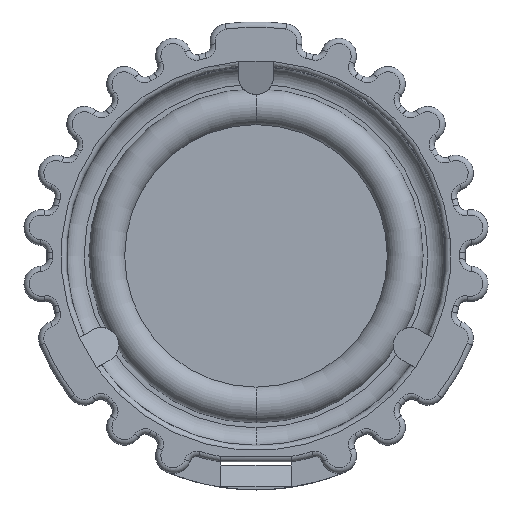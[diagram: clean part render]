
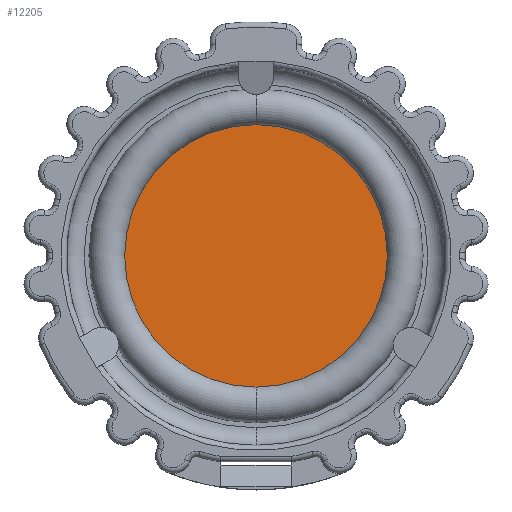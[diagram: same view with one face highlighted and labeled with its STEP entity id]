
A CAD part, top view. The second image highlights one B-rep face of the part: STEP entity #12205.
In plain terms, the highlighted planar face has unit normal (0, 0, 1).
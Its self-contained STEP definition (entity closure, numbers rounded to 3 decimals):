
#4824=CARTESIAN_POINT('',(0.,0.,-7.62));
#4825=DIRECTION('',(0.,0.,1.));
#4826=DIRECTION('',(0.,1.,0.));
#4827=AXIS2_PLACEMENT_3D('',#4824,#4825,#4826);
#4829=CARTESIAN_POINT('',(0.,0.,-7.62));
#4830=DIRECTION('',(0.,0.,-1.));
#4831=DIRECTION('',(0.,1.,0.));
#4832=AXIS2_PLACEMENT_3D('',#4829,#4830,#4831);
#4931=CARTESIAN_POINT('',(0.,9.411,-7.62));
#4932=CARTESIAN_POINT('',(0.,-9.411,-7.62));
#4933=VERTEX_POINT('',#4931);
#4934=VERTEX_POINT('',#4932);
#12196=CARTESIAN_POINT('',(0.,0.,-7.62));
#12197=DIRECTION('',(0.,0.,-1.));
#12198=DIRECTION('',(0.,-1.,0.));
#12199=AXIS2_PLACEMENT_3D('',#12196,#12197,#12198);
#12200=PLANE('',#12199);
#12201=ORIENTED_EDGE('',*,*,#12175,.F.);
#12202=ORIENTED_EDGE('',*,*,#12191,.T.);
#12203=EDGE_LOOP('',(#12201,#12202));
#12204=FACE_OUTER_BOUND('',#12203,.F.);
#12205=ADVANCED_FACE('',(#12204),#12200,.F.);
#4828=CIRCLE('',#4827,9.411);
#4833=CIRCLE('',#4832,9.411);
#12175=EDGE_CURVE('',#4933,#4934,#4828,.T.);
#12191=EDGE_CURVE('',#4933,#4934,#4833,.T.);
